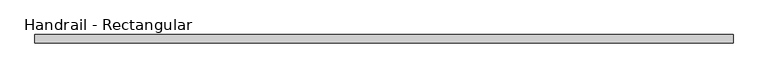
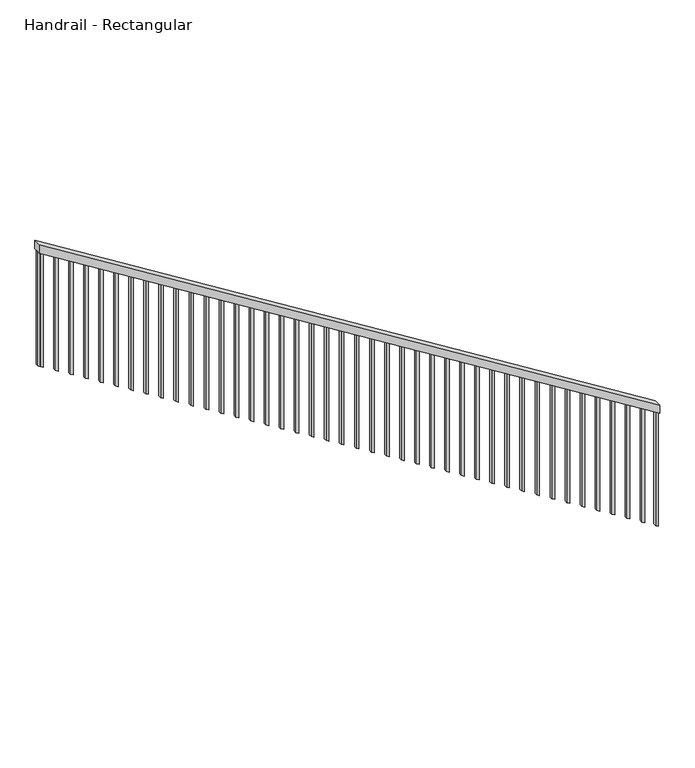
"""IFC4 building model written with IfcOpenShell, lengths in millimetres: railing geometry, Handrail - Rectangular."""

from ifc_helpers import new_model, si_unit, frame, origin, place, context, project, spatial, polyline, outline, extrude, source, transform, mapped, element, save


def handrail_rectangular_8bdb5d3b(model_context):
    return source(origin(), model_context, "Body", "SweptSolid", [
        extrude(outline(polyline([(6340.9378867, 95113.7999465), (6400.8, 95113.7999465), (9013.3714286, 90922.7999465), (8953.5093152, 90922.7999465), (6340.9378867, 95113.7999465)])), frame((0.0, -23816.3748895, 0.0), z_axis=(0.0, 1.0, 0.0), x_axis=(0.0, 0.0, 1.0)), (0.0, 0.0, 1.0), 50.8),
        extrude(outline(polyline([(8931.7378867, 90957.7249465), (8943.6132113, 90938.6749465), (8128.6567266, 90938.6749465), (8116.781402, 90957.7249465), (8931.7378867, 90957.7249465)])), frame((0.0, -23800.4998895, 0.0), z_axis=(0.0, 1.0, 0.0), x_axis=(0.0, 0.0, 1.0)), (0.0, 0.0, 1.0), 19.05),
        extrude(outline(polyline([(8868.4028217, 91059.3249465), (8880.2781464, 91040.2749465), (8065.3216617, 91040.2749465), (8053.446337, 91059.3249465), (8868.4028217, 91059.3249465)])), frame((0.0, -23800.4998895, 0.0), z_axis=(0.0, 1.0, 0.0), x_axis=(0.0, 0.0, 1.0)), (0.0, 0.0, 1.0), 19.05),
        extrude(outline(polyline([(8805.0677568, 91160.9249465), (8816.9430815, 91141.8749465), (8001.9865968, 91141.8749465), (7990.1112721, 91160.9249465), (8805.0677568, 91160.9249465)])), frame((0.0, -23800.4998895, 0.0), z_axis=(0.0, 1.0, 0.0), x_axis=(0.0, 0.0, 1.0)), (0.0, 0.0, 1.0), 19.05),
        extrude(outline(polyline([(8741.7326919, 91262.5249465), (8753.6080165, 91243.4749465), (7938.6515318, 91243.4749465), (7926.7762072, 91262.5249465), (8741.7326919, 91262.5249465)])), frame((0.0, -23800.4998895, 0.0), z_axis=(0.0, 1.0, 0.0), x_axis=(0.0, 0.0, 1.0)), (0.0, 0.0, 1.0), 19.05),
        extrude(outline(polyline([(8678.3976269, 91364.1249465), (8690.2729516, 91345.0749465), (7875.3164669, 91345.0749465), (7863.4411422, 91364.1249465), (8678.3976269, 91364.1249465)])), frame((0.0, -23800.4998895, 0.0), z_axis=(0.0, 1.0, 0.0), x_axis=(0.0, 0.0, 1.0)), (0.0, 0.0, 1.0), 19.05),
        extrude(outline(polyline([(8615.062562, 91465.7249465), (8626.9378867, 91446.6749465), (7811.981402, 91446.6749465), (7800.1060773, 91465.7249465), (8615.062562, 91465.7249465)])), frame((0.0, -23800.4998895, 0.0), z_axis=(0.0, 1.0, 0.0), x_axis=(0.0, 0.0, 1.0)), (0.0, 0.0, 1.0), 19.05),
        extrude(outline(polyline([(8551.7274971, 91567.3249465), (8563.6028217, 91548.2749465), (7748.646337, 91548.2749465), (7736.7710124, 91567.3249465), (8551.7274971, 91567.3249465)])), frame((0.0, -23800.4998895, 0.0), z_axis=(0.0, 1.0, 0.0), x_axis=(0.0, 0.0, 1.0)), (0.0, 0.0, 1.0), 19.05),
        extrude(outline(polyline([(8488.3924321, 91668.9249465), (8500.2677568, 91649.8749465), (7685.3112721, 91649.8749465), (7673.4359474, 91668.9249465), (8488.3924321, 91668.9249465)])), frame((0.0, -23800.4998895, 0.0), z_axis=(0.0, 1.0, 0.0), x_axis=(0.0, 0.0, 1.0)), (0.0, 0.0, 1.0), 19.05),
        extrude(outline(polyline([(8425.0573672, 91770.5249465), (8436.9326919, 91751.4749465), (7621.9762072, 91751.4749465), (7610.1008825, 91770.5249465), (8425.0573672, 91770.5249465)])), frame((0.0, -23800.4998895, 0.0), z_axis=(0.0, 1.0, 0.0), x_axis=(0.0, 0.0, 1.0)), (0.0, 0.0, 1.0), 19.05),
        extrude(outline(polyline([(8361.7223023, 91872.1249465), (8373.5976269, 91853.0749465), (7558.6411422, 91853.0749465), (7546.7658175, 91872.1249465), (8361.7223023, 91872.1249465)])), frame((0.0, -23800.4998895, 0.0), z_axis=(0.0, 1.0, 0.0), x_axis=(0.0, 0.0, 1.0)), (0.0, 0.0, 1.0), 19.05),
        extrude(outline(polyline([(8298.3872373, 91973.7249465), (8310.262562, 91954.6749465), (7495.3060773, 91954.6749465), (7483.4307526, 91973.7249465), (8298.3872373, 91973.7249465)])), frame((0.0, -23800.4998895, 0.0), z_axis=(0.0, 1.0, 0.0), x_axis=(0.0, 0.0, 1.0)), (0.0, 0.0, 1.0), 19.05),
        extrude(outline(polyline([(8235.0521724, 92075.3249465), (8246.9274971, 92056.2749465), (7431.9710124, 92056.2749465), (7420.0956877, 92075.3249465), (8235.0521724, 92075.3249465)])), frame((0.0, -23800.4998895, 0.0), z_axis=(0.0, 1.0, 0.0), x_axis=(0.0, 0.0, 1.0)), (0.0, 0.0, 1.0), 19.05),
        extrude(outline(polyline([(8171.7171074, 92176.9249465), (8183.5924321, 92157.8749465), (7368.6359474, 92157.8749465), (7356.7606227, 92176.9249465), (8171.7171074, 92176.9249465)])), frame((0.0, -23800.4998895, 0.0), z_axis=(0.0, 1.0, 0.0), x_axis=(0.0, 0.0, 1.0)), (0.0, 0.0, 1.0), 19.05),
        extrude(outline(polyline([(8108.3820425, 92278.5249465), (8120.2573672, 92259.4749465), (7305.3008825, 92259.4749465), (7293.4255578, 92278.5249465), (8108.3820425, 92278.5249465)])), frame((0.0, -23800.4998895, 0.0), z_axis=(0.0, 1.0, 0.0), x_axis=(0.0, 0.0, 1.0)), (0.0, 0.0, 1.0), 19.05),
        extrude(outline(polyline([(8045.0469776, 92380.1249465), (8056.9223023, 92361.0749465), (7241.9658175, 92361.0749465), (7230.0904929, 92380.1249465), (8045.0469776, 92380.1249465)])), frame((0.0, -23800.4998895, 0.0), z_axis=(0.0, 1.0, 0.0), x_axis=(0.0, 0.0, 1.0)), (0.0, 0.0, 1.0), 19.05),
        extrude(outline(polyline([(7981.7119126, 92481.7249465), (7993.5872373, 92462.6749465), (7178.6307526, 92462.6749465), (7166.7554279, 92481.7249465), (7981.7119126, 92481.7249465)])), frame((0.0, -23800.4998895, 0.0), z_axis=(0.0, 1.0, 0.0), x_axis=(0.0, 0.0, 1.0)), (0.0, 0.0, 1.0), 19.05),
        extrude(outline(polyline([(7918.3768477, 92583.3249465), (7930.2521724, 92564.2749465), (7115.2956877, 92564.2749465), (7103.420363, 92583.3249465), (7918.3768477, 92583.3249465)])), frame((0.0, -23800.4998895, 0.0), z_axis=(0.0, 1.0, 0.0), x_axis=(0.0, 0.0, 1.0)), (0.0, 0.0, 1.0), 19.05),
        extrude(outline(polyline([(7855.0417828, 92684.9249465), (7866.9171074, 92665.8749465), (7051.9606227, 92665.8749465), (7040.0852981, 92684.9249465), (7855.0417828, 92684.9249465)])), frame((0.0, -23800.4998895, 0.0), z_axis=(0.0, 1.0, 0.0), x_axis=(0.0, 0.0, 1.0)), (0.0, 0.0, 1.0), 19.05),
        extrude(outline(polyline([(7791.7067178, 92786.5249465), (7803.5820425, 92767.4749465), (6988.6255578, 92767.4749465), (6976.7502331, 92786.5249465), (7791.7067178, 92786.5249465)])), frame((0.0, -23800.4998895, 0.0), z_axis=(0.0, 1.0, 0.0), x_axis=(0.0, 0.0, 1.0)), (0.0, 0.0, 1.0), 19.05),
        extrude(outline(polyline([(7728.3716529, 92888.1249465), (7740.2469776, 92869.0749465), (6925.2904929, 92869.0749465), (6913.4151682, 92888.1249465), (7728.3716529, 92888.1249465)])), frame((0.0, -23800.4998895, 0.0), z_axis=(0.0, 1.0, 0.0), x_axis=(0.0, 0.0, 1.0)), (0.0, 0.0, 1.0), 19.05),
        extrude(outline(polyline([(7665.036588, 92989.7249465), (7676.9119126, 92970.6749465), (6861.9554279, 92970.6749465), (6850.0801033, 92989.7249465), (7665.036588, 92989.7249465)])), frame((0.0, -23800.4998895, 0.0), z_axis=(0.0, 1.0, 0.0), x_axis=(0.0, 0.0, 1.0)), (0.0, 0.0, 1.0), 19.05),
        extrude(outline(polyline([(7601.701523, 93091.3249465), (7613.5768477, 93072.2749465), (6798.620363, 93072.2749465), (6786.7450383, 93091.3249465), (7601.701523, 93091.3249465)])), frame((0.0, -23800.4998895, 0.0), z_axis=(0.0, 1.0, 0.0), x_axis=(0.0, 0.0, 1.0)), (0.0, 0.0, 1.0), 19.05),
        extrude(outline(polyline([(7538.3664581, 93192.9249465), (7550.2417828, 93173.8749465), (6735.2852981, 93173.8749465), (6723.4099734, 93192.9249465), (7538.3664581, 93192.9249465)])), frame((0.0, -23800.4998895, 0.0), z_axis=(0.0, 1.0, 0.0), x_axis=(0.0, 0.0, 1.0)), (0.0, 0.0, 1.0), 19.05),
        extrude(outline(polyline([(7475.0313932, 93294.5249465), (7486.9067178, 93275.4749465), (6671.9502331, 93275.4749465), (6660.0749085, 93294.5249465), (7475.0313932, 93294.5249465)])), frame((0.0, -23800.4998895, 0.0), z_axis=(0.0, 1.0, 0.0), x_axis=(0.0, 0.0, 1.0)), (0.0, 0.0, 1.0), 19.05),
        extrude(outline(polyline([(7411.6963282, 93396.1249465), (7423.5716529, 93377.0749465), (6608.6151682, 93377.0749465), (6596.7398435, 93396.1249465), (7411.6963282, 93396.1249465)])), frame((0.0, -23800.4998895, 0.0), z_axis=(0.0, 1.0, 0.0), x_axis=(0.0, 0.0, 1.0)), (0.0, 0.0, 1.0), 19.05),
        extrude(outline(polyline([(7348.3612633, 93497.7249465), (7360.236588, 93478.6749465), (6545.2801033, 93478.6749465), (6533.4047786, 93497.7249465), (7348.3612633, 93497.7249465)])), frame((0.0, -23800.4998895, 0.0), z_axis=(0.0, 1.0, 0.0), x_axis=(0.0, 0.0, 1.0)), (0.0, 0.0, 1.0), 19.05),
        extrude(outline(polyline([(7285.0261984, 93599.3249465), (7296.901523, 93580.2749465), (6481.9450383, 93580.2749465), (6470.0697137, 93599.3249465), (7285.0261984, 93599.3249465)])), frame((0.0, -23800.4998895, 0.0), z_axis=(0.0, 1.0, 0.0), x_axis=(0.0, 0.0, 1.0)), (0.0, 0.0, 1.0), 19.05),
        extrude(outline(polyline([(7221.6911334, 93700.9249465), (7233.5664581, 93681.8749465), (6418.6099734, 93681.8749465), (6406.7346487, 93700.9249465), (7221.6911334, 93700.9249465)])), frame((0.0, -23800.4998895, 0.0), z_axis=(0.0, 1.0, 0.0), x_axis=(0.0, 0.0, 1.0)), (0.0, 0.0, 1.0), 19.05),
        extrude(outline(polyline([(7158.3560685, 93802.5249465), (7170.2313932, 93783.4749465), (6355.2749085, 93783.4749465), (6343.3995838, 93802.5249465), (7158.3560685, 93802.5249465)])), frame((0.0, -23800.4998895, 0.0), z_axis=(0.0, 1.0, 0.0), x_axis=(0.0, 0.0, 1.0)), (0.0, 0.0, 1.0), 19.05),
        extrude(outline(polyline([(7095.0210036, 93904.1249465), (7106.8963282, 93885.0749465), (6291.9398435, 93885.0749465), (6280.0645188, 93904.1249465), (7095.0210036, 93904.1249465)])), frame((0.0, -23800.4998895, 0.0), z_axis=(0.0, 1.0, 0.0), x_axis=(0.0, 0.0, 1.0)), (0.0, 0.0, 1.0), 19.05),
        extrude(outline(polyline([(7031.6859386, 94005.7249465), (7043.5612633, 93986.6749465), (6228.6047786, 93986.6749465), (6216.7294539, 94005.7249465), (7031.6859386, 94005.7249465)])), frame((0.0, -23800.4998895, 0.0), z_axis=(0.0, 1.0, 0.0), x_axis=(0.0, 0.0, 1.0)), (0.0, 0.0, 1.0), 19.05),
        extrude(outline(polyline([(6968.3508737, 94107.3249465), (6980.2261984, 94088.2749465), (6165.2697137, 94088.2749465), (6153.394389, 94107.3249465), (6968.3508737, 94107.3249465)])), frame((0.0, -23800.4998895, 0.0), z_axis=(0.0, 1.0, 0.0), x_axis=(0.0, 0.0, 1.0)), (0.0, 0.0, 1.0), 19.05),
        extrude(outline(polyline([(6905.0158087, 94208.9249465), (6916.8911334, 94189.8749465), (6101.9346487, 94189.8749465), (6090.059324, 94208.9249465), (6905.0158087, 94208.9249465)])), frame((0.0, -23800.4998895, 0.0), z_axis=(0.0, 1.0, 0.0), x_axis=(0.0, 0.0, 1.0)), (0.0, 0.0, 1.0), 19.05),
        extrude(outline(polyline([(6841.6807438, 94310.5249465), (6853.5560685, 94291.4749465), (6038.5995838, 94291.4749465), (6026.7242591, 94310.5249465), (6841.6807438, 94310.5249465)])), frame((0.0, -23800.4998895, 0.0), z_axis=(0.0, 1.0, 0.0), x_axis=(0.0, 0.0, 1.0)), (0.0, 0.0, 1.0), 19.05),
        extrude(outline(polyline([(6778.3456789, 94412.1249465), (6790.2210036, 94393.0749465), (5975.2645188, 94393.0749465), (5963.3891942, 94412.1249465), (6778.3456789, 94412.1249465)])), frame((0.0, -23800.4998895, 0.0), z_axis=(0.0, 1.0, 0.0), x_axis=(0.0, 0.0, 1.0)), (0.0, 0.0, 1.0), 19.05),
        extrude(outline(polyline([(6715.0106139, 94513.7249465), (6726.8859386, 94494.6749465), (5911.9294539, 94494.6749465), (5900.0541292, 94513.7249465), (6715.0106139, 94513.7249465)])), frame((0.0, -23800.4998895, 0.0), z_axis=(0.0, 1.0, 0.0), x_axis=(0.0, 0.0, 1.0)), (0.0, 0.0, 1.0), 19.05),
        extrude(outline(polyline([(6651.675549, 94615.3249465), (6663.5508737, 94596.2749465), (5848.594389, 94596.2749465), (5836.7190643, 94615.3249465), (6651.675549, 94615.3249465)])), frame((0.0, -23800.4998895, 0.0), z_axis=(0.0, 1.0, 0.0), x_axis=(0.0, 0.0, 1.0)), (0.0, 0.0, 1.0), 19.05),
        extrude(outline(polyline([(6588.3404841, 94716.9249465), (6600.2158087, 94697.8749465), (5785.259324, 94697.8749465), (5773.3839994, 94716.9249465), (6588.3404841, 94716.9249465)])), frame((0.0, -23800.4998895, 0.0), z_axis=(0.0, 1.0, 0.0), x_axis=(0.0, 0.0, 1.0)), (0.0, 0.0, 1.0), 19.05),
        extrude(outline(polyline([(6525.0054191, 94818.5249465), (6536.8807438, 94799.4749465), (5721.9242591, 94799.4749465), (5710.0489344, 94818.5249465), (6525.0054191, 94818.5249465)])), frame((0.0, -23800.4998895, 0.0), z_axis=(0.0, 1.0, 0.0), x_axis=(0.0, 0.0, 1.0)), (0.0, 0.0, 1.0), 19.05),
        extrude(outline(polyline([(6461.6703542, 94920.1249465), (6473.5456789, 94901.0749465), (5658.5891942, 94901.0749465), (5646.7138695, 94920.1249465), (6461.6703542, 94920.1249465)])), frame((0.0, -23800.4998895, 0.0), z_axis=(0.0, 1.0, 0.0), x_axis=(0.0, 0.0, 1.0)), (0.0, 0.0, 1.0), 19.05),
        extrude(outline(polyline([(6398.3352893, 95021.7249465), (6410.2106139, 95002.6749465), (5595.2541292, 95002.6749465), (5583.3788046, 95021.7249465), (6398.3352893, 95021.7249465)])), frame((0.0, -23800.4998895, 0.0), z_axis=(0.0, 1.0, 0.0), x_axis=(0.0, 0.0, 1.0)), (0.0, 0.0, 1.0), 19.05),
        extrude(outline(polyline([(8941.6339906, 90941.8499465), (8953.5093152, 90922.7999465), (8138.5528305, 90922.7999465), (8126.6775059, 90941.8499465), (8941.6339906, 90941.8499465)])), frame((0.0, -23800.4998895, 0.0), z_axis=(0.0, 1.0, 0.0), x_axis=(0.0, 0.0, 1.0)), (0.0, 0.0, 1.0), 19.05),
        extrude(outline(polyline([(6340.9378867, 95113.7999465), (6352.8132113, 95094.7499465), (5537.8567266, 95094.7499465), (5525.981402, 95113.7999465), (6340.9378867, 95113.7999465)])), frame((0.0, -23800.4998895, 0.0), z_axis=(0.0, 1.0, 0.0), x_axis=(0.0, 0.0, 1.0)), (0.0, 0.0, 1.0), 19.05),
    ])


if __name__ == "__main__":
    model = new_model("IFC4")
    model_context = context("Model", 3, world=origin())
    ifc_project = project(units=[si_unit("LENGTHUNIT", "METRE", prefix="MILLI")], contexts=[model_context])
    site = spatial("IfcSite", under=ifc_project)
    building = spatial("IfcBuilding", under=site)
    placement = place(None, origin())
    handrail_rectangular_shape = handrail_rectangular_8bdb5d3b(model_context)
    element("IfcRailing", 1, ObjectType="Handrail - Rectangular", at=placement, inside=building, context=model_context, shape_type="MappedRepresentation", body=[
        mapped(handrail_rectangular_shape, transform((0.0, 0.0, 0.0), x_axis=(1.0, 0.0, 0.0), y_axis=(0.0, 1.0, 0.0), z_axis=(0.0, 0.0, 1.0))),
    ])
    save(model, "model.ifc")
